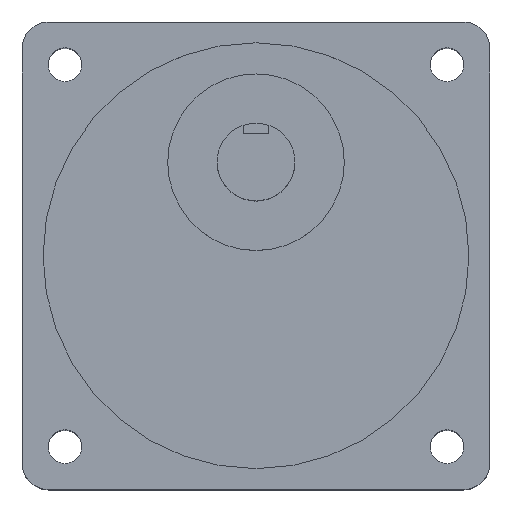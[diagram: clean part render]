
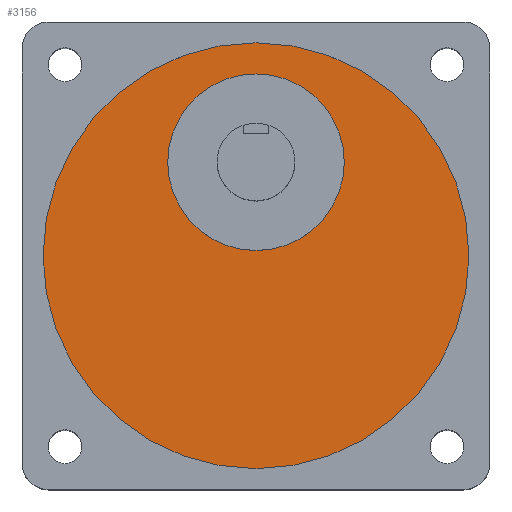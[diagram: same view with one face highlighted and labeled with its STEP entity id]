
A CAD part, top view. The second image highlights one B-rep face of the part: STEP entity #3156.
In plain terms, the highlighted planar face has unit normal (0, 0, 1).
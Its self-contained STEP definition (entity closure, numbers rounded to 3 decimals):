
#2 = FACE_BOUND ( 'NONE', #673, .T. ) ;
#117 = ORIENTED_EDGE ( 'NONE', *, *, #3200, .T. ) ;
#123 = DIRECTION ( 'NONE',  ( 1., 0., 0. ) ) ;
#211 = DIRECTION ( 'NONE',  ( 1., 0., 0. ) ) ;
#249 = CARTESIAN_POINT ( 'NONE',  ( 41., 0., 59. ) ) ;
#280 = ORIENTED_EDGE ( 'NONE', *, *, #1025, .F. ) ;
#320 = DIRECTION ( 'NONE',  ( 0., 0., 1. ) ) ;
#408 = CARTESIAN_POINT ( 'NONE',  ( -17., 18., 59. ) ) ;
#605 = VERTEX_POINT ( 'NONE', #249 ) ;
#673 = EDGE_LOOP ( 'NONE', ( #4358, #280 ) ) ;
#811 = CARTESIAN_POINT ( 'NONE',  ( 17., 18., 59. ) ) ;
#837 = EDGE_CURVE ( 'NONE', #976, #605, #1942, .T. ) ;
#976 = VERTEX_POINT ( 'NONE', #1513 ) ;
#1025 = EDGE_CURVE ( 'NONE', #4026, #3304, #3172, .T. ) ;
#1513 = CARTESIAN_POINT ( 'NONE',  ( -41., 0., 59. ) ) ;
#1563 = DIRECTION ( 'NONE',  ( 0., 0., 1. ) ) ;
#1792 = AXIS2_PLACEMENT_3D ( 'NONE', #1928, #1563, #3225 ) ;
#1928 = CARTESIAN_POINT ( 'NONE',  ( 0., 0., 59. ) ) ;
#1942 = CIRCLE ( 'NONE', #1792, 41. ) ;
#1945 = CARTESIAN_POINT ( 'NONE',  ( 0., 18., 59. ) ) ;
#2097 = AXIS2_PLACEMENT_3D ( 'NONE', #4155, #2357, #211 ) ;
#2275 = DIRECTION ( 'NONE',  ( 0., 0., 1. ) ) ;
#2308 = DIRECTION ( 'NONE',  ( 1., 0., 0. ) ) ;
#2357 = DIRECTION ( 'NONE',  ( 0., 0., 1. ) ) ;
#2474 = CARTESIAN_POINT ( 'NONE',  ( 0., 0., 59. ) ) ;
#2728 = FACE_OUTER_BOUND ( 'NONE', #3718, .T. ) ;
#2822 = DIRECTION ( 'NONE',  ( 1., 0., 0. ) ) ;
#2866 = EDGE_CURVE ( 'NONE', #3304, #4026, #3882, .T. ) ;
#2916 = AXIS2_PLACEMENT_3D ( 'NONE', #1945, #4496, #2308 ) ;
#3049 = PLANE ( 'NONE',  #2097 ) ;
#3156 = ADVANCED_FACE ( 'NONE', ( #2, #2728 ), #3049, .T. ) ;
#3172 = CIRCLE ( 'NONE', #4476, 17. ) ;
#3200 = EDGE_CURVE ( 'NONE', #605, #976, #4107, .T. ) ;
#3225 = DIRECTION ( 'NONE',  ( 1., 0., 0. ) ) ;
#3304 = VERTEX_POINT ( 'NONE', #408 ) ;
#3554 = AXIS2_PLACEMENT_3D ( 'NONE', #2474, #320, #2822 ) ;
#3718 = EDGE_LOOP ( 'NONE', ( #117, #3790 ) ) ;
#3790 = ORIENTED_EDGE ( 'NONE', *, *, #837, .T. ) ;
#3882 = CIRCLE ( 'NONE', #2916, 17. ) ;
#4026 = VERTEX_POINT ( 'NONE', #811 ) ;
#4107 = CIRCLE ( 'NONE', #3554, 41. ) ;
#4155 = CARTESIAN_POINT ( 'NONE',  ( 0., 0., 59. ) ) ;
#4358 = ORIENTED_EDGE ( 'NONE', *, *, #2866, .F. ) ;
#4462 = CARTESIAN_POINT ( 'NONE',  ( 0., 18., 59. ) ) ;
#4476 = AXIS2_PLACEMENT_3D ( 'NONE', #4462, #2275, #123 ) ;
#4496 = DIRECTION ( 'NONE',  ( 0., 0., 1. ) ) ;
